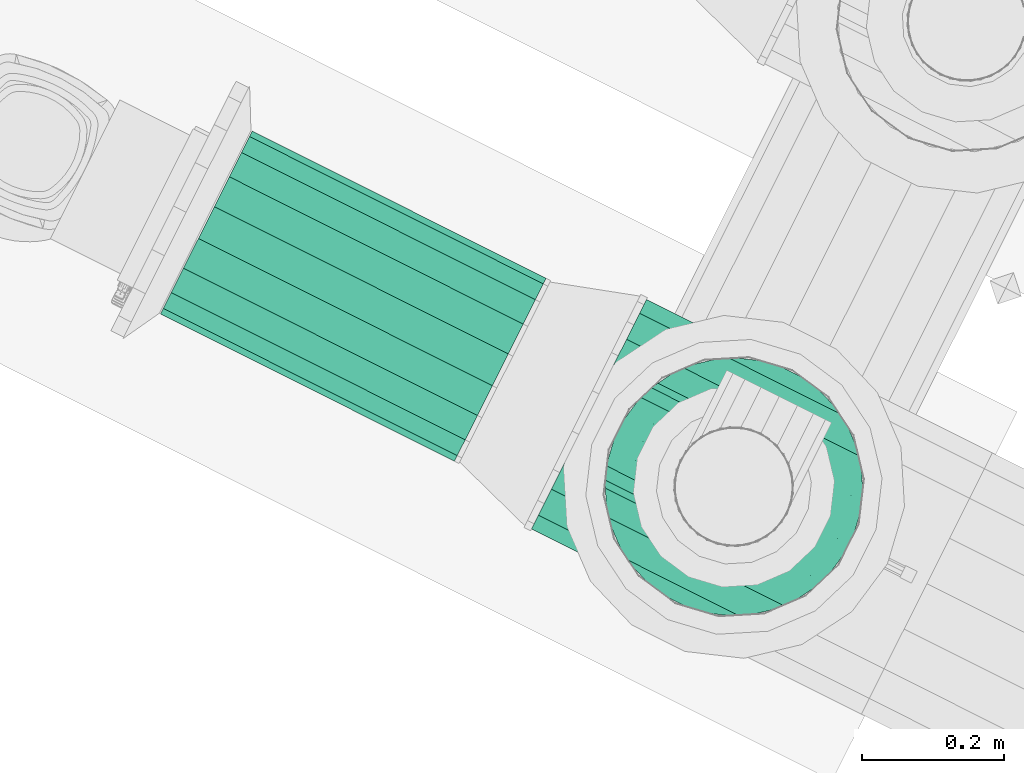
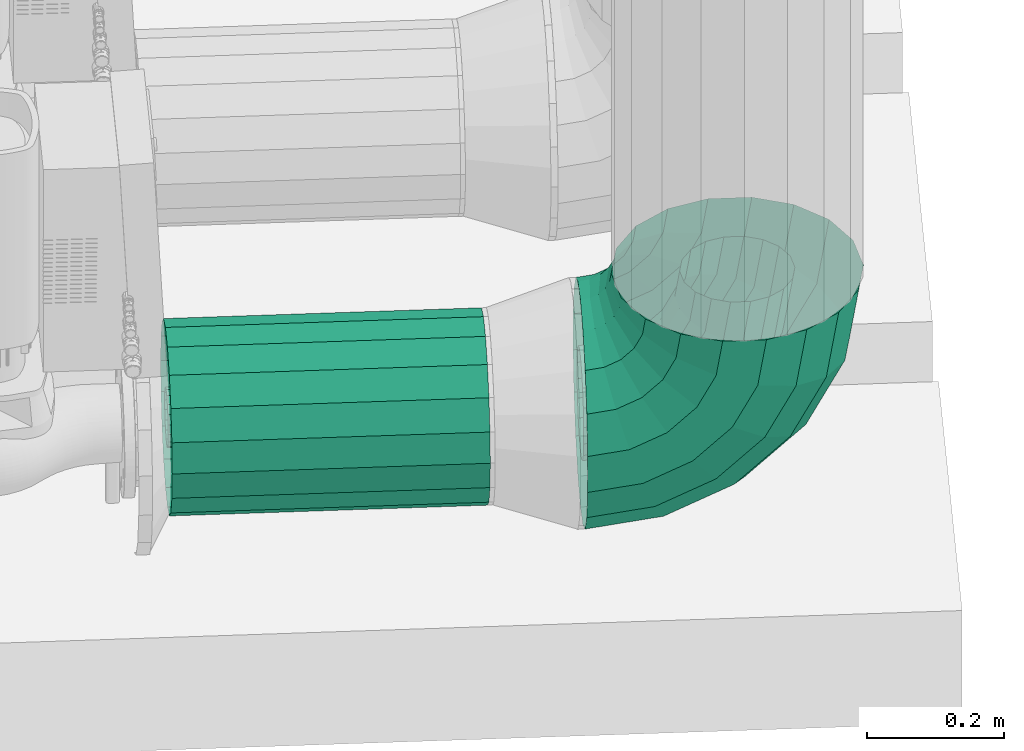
# One storey, part 20 of 152: 2 flow segments.
"""IFC2X3 building model written with IfcOpenShell, lengths in metres."""

from ifc_helpers import new_model, si_unit, derived_unit, direction, frame, origin, place, context, subcontext, project, spatial, face_set, surface_model, source, transform, mapped, material, type_object, type_shapes, element, save


model = new_model("IFC2X3")

# Units and contexts
model_context = context("Model", 3, precision=5.2338327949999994e-05, world=origin(), true_north=direction((0.0, 1.0)))
body_context = subcontext(model_context, "Body", "Model", "MODEL_VIEW")
ifc_project = project(units=[si_unit("LENGTHUNIT", "METRE"), si_unit("AREAUNIT", "SQUARE_METRE"), si_unit("VOLUMEUNIT", "CUBIC_METRE"), si_unit("MASSUNIT", "GRAM", prefix="KILO"), si_unit("PLANEANGLEUNIT", "RADIAN"), derived_unit("THERMALTRANSMITTANCEUNIT", [(si_unit("MASSUNIT", "GRAM", prefix="KILO"), 1), (si_unit("THERMODYNAMICTEMPERATUREUNIT", "KELVIN"), -1), (si_unit("TIMEUNIT", "SECOND"), -3)])], contexts=[model_context])

# Site, building, storey
site_placement = place(None, frame((0.0, 0.0, 0.0), z_axis=(0.0, 0.0, 1.0), x_axis=(0.8939966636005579, -0.4480736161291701, 0.0)))
site = spatial("IfcSite", under=ifc_project, at=site_placement, Name="Default", CompositionType="ELEMENT")
building_placement = place(site_placement, origin())
building = spatial("IfcBuilding", under=site, at=building_placement, CompositionType="ELEMENT")
storey_placement = place(building_placement, frame((0.0, 0.0, 2.7499999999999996)))
storey = spatial("IfcBuildingStorey", under=building, at=storey_placement, Name="1. Obergeschoss", CompositionType="ELEMENT", Elevation=2.7499999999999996)

# Flow segments
ifc_material = material(Name="IfcSurfaceStyle #9317")
distribution_element_type_1 = type_object("IfcDistributionElementType", Name="Rohrbogen 15085:Rohrbogen 15085", material=ifc_material)
shared_shape_1 = source(origin(), body_context, "Body", "SurfaceModel", [
    surface_model("IfcFaceBasedSurfaceModel", [(11.809964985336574, 5.856787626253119, 3.554154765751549), (11.804890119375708, 5.828006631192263, 3.554154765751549), (11.789811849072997, 5.828006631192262, 3.458954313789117), (11.794638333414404, 5.856787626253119, 3.4573860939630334), (11.746053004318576, 5.828006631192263, 3.3730727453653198), (11.75015865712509, 5.856787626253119, 3.3700898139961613), (11.677897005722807, 5.828006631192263, 3.304916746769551), (11.680879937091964, 5.856787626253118, 3.300811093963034), (11.59201543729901, 5.828006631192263, 3.261157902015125), (11.59358365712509, 5.856787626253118, 3.2563314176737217), (11.496814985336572, 5.828006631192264, 3.2460796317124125), (11.496814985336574, 5.856787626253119, 3.2410047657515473), (11.790277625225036, 5.802697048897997, 3.554154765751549), (11.775914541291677, 5.802697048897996, 3.4634698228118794), (11.734231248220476, 5.802697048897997, 3.3816617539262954), (11.669307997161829, 5.802697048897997, 3.316738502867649), (11.587499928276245, 5.802697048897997, 3.2750552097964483), (11.496814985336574, 5.802697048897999, 3.260692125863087), (11.767889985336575, 5.783911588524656, 3.554154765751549), (11.754622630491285, 5.783911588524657, 3.47038798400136), (11.716119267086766, 5.783911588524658, 3.394820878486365), (11.656148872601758, 5.783911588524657, 3.3348504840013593), (11.580581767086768, 5.783911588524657, 3.296347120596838), (11.496814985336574, 5.783911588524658, 3.2830797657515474), (11.740427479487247, 5.773916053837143, 3.554154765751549), (11.728504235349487, 5.77391605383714, 3.4788743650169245), (11.693901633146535, 5.773916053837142, 3.410962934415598), (11.640006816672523, 5.773916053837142, 3.357068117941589), (11.5720953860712, 5.773916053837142, 3.322465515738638), (11.496814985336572, 5.773916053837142, 3.3105422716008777), (11.711202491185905, 5.773916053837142, 3.554154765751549), (11.700709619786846, 5.77391605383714, 3.487905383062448), (11.67025812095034, 5.773916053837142, 3.4281409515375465), (11.622828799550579, 5.773916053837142, 3.380711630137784), (11.563064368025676, 5.77391605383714, 3.3502601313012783), (11.496814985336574, 5.773916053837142, 3.3397672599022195), (11.683739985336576, 5.783911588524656, 3.554154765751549), (11.674591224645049, 5.783911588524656, 3.4963917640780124), (11.648040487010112, 5.783911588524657, 3.4442830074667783), (11.606686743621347, 5.783911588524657, 3.402929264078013), (11.554577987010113, 5.783911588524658, 3.3763785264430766), (11.496814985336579, 5.783911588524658, 3.367229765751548), (11.661352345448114, 5.802697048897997, 3.5541547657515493), (11.653299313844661, 5.802697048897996, 3.5033099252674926), (11.6299285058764, 5.802697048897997, 3.4574421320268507), (11.593527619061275, 5.802697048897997, 3.4210412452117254), (11.54765982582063, 5.802697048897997, 3.397670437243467), (11.496814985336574, 5.802697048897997, 3.38961740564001), (11.646739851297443, 5.828006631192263, 3.554154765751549), (11.639402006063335, 5.828006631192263, 3.5078254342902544), (11.618106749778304, 5.828006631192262, 3.466031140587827), (11.584938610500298, 5.828006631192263, 3.4328630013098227), (11.54314431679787, 5.828006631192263, 3.4115677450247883), (11.496814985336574, 5.828006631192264, 3.4042298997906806), (11.641664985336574, 5.856787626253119, 3.554154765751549), (11.634575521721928, 5.856787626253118, 3.5093936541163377), (11.614001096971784, 5.856787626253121, 3.4690140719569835), (11.58195567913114, 5.856787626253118, 3.4369686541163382), (11.541576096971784, 5.856787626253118, 3.4163942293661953), (11.496814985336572, 5.856787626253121, 3.409304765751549), (11.646739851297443, 5.8855686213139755, 3.554154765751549), (11.639402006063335, 5.885568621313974, 3.507825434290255), (11.618106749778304, 5.885568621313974, 3.4660311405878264), (11.584938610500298, 5.8855686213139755, 3.4328630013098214), (11.543144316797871, 5.885568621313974, 3.411567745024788), (11.496814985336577, 5.8855686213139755, 3.40422989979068), (11.661352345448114, 5.910878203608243, 3.554154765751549), (11.65329931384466, 5.9108782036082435, 3.5033099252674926), (11.629928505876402, 5.910878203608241, 3.4574421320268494), (11.593527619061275, 5.910878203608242, 3.4210412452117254), (11.54765982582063, 5.910878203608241, 3.3976704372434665), (11.496814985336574, 5.910878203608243, 3.3896174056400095), (11.683739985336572, 5.92966366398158, 3.554154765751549), (11.674591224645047, 5.929663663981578, 3.4963917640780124), (11.64804048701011, 5.929663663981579, 3.4442830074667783), (11.606686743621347, 5.92966366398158, 3.402929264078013), (11.554577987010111, 5.929663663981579, 3.376378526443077), (11.496814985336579, 5.92966366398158, 3.367229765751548), (11.711202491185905, 5.939659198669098, 3.554154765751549), (11.700709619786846, 5.939659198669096, 3.487905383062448), (11.67025812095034, 5.939659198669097, 3.4281409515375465), (11.62282879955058, 5.939659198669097, 3.380711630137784), (11.563064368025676, 5.939659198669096, 3.3502601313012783), (11.496814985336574, 5.939659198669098, 3.339767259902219), (11.740427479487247, 5.939659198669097, 3.554154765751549), (11.728504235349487, 5.939659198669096, 3.4788743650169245), (11.693901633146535, 5.939659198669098, 3.410962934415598), (11.640006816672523, 5.939659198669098, 3.357068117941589), (11.5720953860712, 5.939659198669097, 3.322465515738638), (11.496814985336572, 5.939659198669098, 3.310542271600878), (11.767889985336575, 5.92966366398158, 3.554154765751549), (11.754622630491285, 5.92966366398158, 3.4703879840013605), (11.716119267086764, 5.929663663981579, 3.394820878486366), (11.656148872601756, 5.929663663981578, 3.3348504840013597), (11.580581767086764, 5.929663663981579, 3.2963471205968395), (11.496814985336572, 5.929663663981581, 3.2830797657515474), (11.790277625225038, 5.9108782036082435, 3.554154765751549), (11.775914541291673, 5.910878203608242, 3.463469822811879), (11.734231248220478, 5.910878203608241, 3.3816617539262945), (11.669307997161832, 5.910878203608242, 3.3167385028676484), (11.587499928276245, 5.910878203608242, 3.275055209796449), (11.496814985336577, 5.910878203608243, 3.260692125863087), (11.804890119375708, 5.8855686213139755, 3.554154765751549), (11.789811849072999, 5.885568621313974, 3.458954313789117), (11.746053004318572, 5.885568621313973, 3.3730727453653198), (11.677897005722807, 5.885568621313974, 3.3049167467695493), (11.59201543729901, 5.885568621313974, 3.2611579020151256), (11.496814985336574, 5.8855686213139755, 3.246079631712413), (11.909964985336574, 5.856787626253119, 3.554154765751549), (11.898859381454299, 5.793804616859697, 3.554154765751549), (11.879181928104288, 5.793804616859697, 3.429916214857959), (11.889743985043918, 5.856787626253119, 3.4264843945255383), (11.822075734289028, 5.793804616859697, 3.3178389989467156), (11.831060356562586, 5.856787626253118, 3.3113112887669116), (11.733130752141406, 5.793804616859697, 3.228894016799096), (11.739658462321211, 5.856787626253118, 3.21990939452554), (11.621053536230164, 5.793804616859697, 3.1717878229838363), (11.624485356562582, 5.856787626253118, 3.1612257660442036), (11.496814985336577, 5.793804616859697, 3.152110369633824), (11.496814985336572, 5.856787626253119, 3.1410047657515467), (11.866882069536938, 5.738418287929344, 3.554154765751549), (11.848769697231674, 5.738418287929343, 3.4397977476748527), (11.796205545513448, 5.738418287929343, 3.3366347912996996), (11.71433495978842, 5.738418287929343, 3.2547642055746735), (11.611172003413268, 5.738418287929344, 3.2022000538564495), (11.496814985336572, 5.738418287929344, 3.1840876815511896), (11.817889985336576, 5.697309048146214, 3.554154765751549), (11.80217545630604, 5.697309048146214, 3.4549371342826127), (11.756570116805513, 5.697309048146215, 3.3654316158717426), (11.685538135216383, 5.697309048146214, 3.294399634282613), (11.59603261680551, 5.697309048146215, 3.2487942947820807), (11.496814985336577, 5.697309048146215, 3.2330797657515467), (11.757792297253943, 5.67543527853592, 3.554154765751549), (11.74501915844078, 5.67543527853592, 3.4735083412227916), (11.707950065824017, 5.67543527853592, 3.4007561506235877), (11.650213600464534, 5.675435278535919, 3.3430196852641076), (11.57746140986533, 5.67543527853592, 3.3059505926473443), (11.496814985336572, 5.67543527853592, 3.2931774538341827), (11.693837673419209, 5.675435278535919, 3.554154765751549), (11.68419469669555, 5.67543527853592, 3.493271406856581), (11.656209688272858, 5.675435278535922, 3.438347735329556), (11.612622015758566, 5.67543527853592, 3.394760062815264), (11.557698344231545, 5.67543527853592, 3.3667750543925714), (11.496814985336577, 5.67543527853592, 3.3571320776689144), (11.633739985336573, 5.697309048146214, 3.554154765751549), (11.627038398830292, 5.697309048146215, 3.5118426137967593), (11.607589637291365, 5.697309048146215, 3.473672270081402), (11.577297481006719, 5.697309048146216, 3.4433801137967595), (11.539127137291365, 5.697309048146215, 3.4239313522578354), (11.496814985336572, 5.697309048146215, 3.41722976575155), (11.584747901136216, 5.738418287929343, 3.554154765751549), (11.580444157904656, 5.738418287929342, 3.5269820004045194), (11.567954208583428, 5.738418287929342, 3.5024690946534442), (11.548500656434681, 5.738418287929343, 3.4830155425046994), (11.523987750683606, 5.738418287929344, 3.4705255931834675), (11.496814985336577, 5.738418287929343, 3.466221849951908), (11.552770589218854, 5.793804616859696, 3.554154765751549), (11.550031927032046, 5.793804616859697, 3.5368635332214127), (11.542084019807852, 5.793804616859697, 3.521264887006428), (11.5297048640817, 5.793804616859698, 3.508885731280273), (11.514106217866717, 5.793804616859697, 3.5009378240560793), (11.496814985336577, 5.793804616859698, 3.49819916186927), (11.541664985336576, 5.856787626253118, 3.554154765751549), (11.53946987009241, 5.856787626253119, 3.540295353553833), (11.53309939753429, 5.856787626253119, 3.5277925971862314), (11.523177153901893, 5.856787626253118, 3.517870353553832), (11.510674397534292, 5.856787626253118, 3.5114998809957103), (11.496814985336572, 5.856787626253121, 3.5093047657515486), (11.552770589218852, 5.91977063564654, 3.5541547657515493), (11.550031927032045, 5.919770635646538, 3.536863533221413), (11.542084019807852, 5.919770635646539, 3.5212648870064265), (11.529704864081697, 5.919770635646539, 3.508885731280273), (11.514106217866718, 5.919770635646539, 3.500937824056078), (11.496814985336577, 5.919770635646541, 3.498199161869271), (11.584747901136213, 5.975156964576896, 3.554154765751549), (11.580444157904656, 5.975156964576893, 3.5269820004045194), (11.567954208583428, 5.975156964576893, 3.5024690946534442), (11.54850065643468, 5.975156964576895, 3.4830155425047), (11.523987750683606, 5.975156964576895, 3.4705255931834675), (11.496814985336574, 5.975156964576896, 3.466221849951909), (11.633739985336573, 6.016266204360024, 3.554154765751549), (11.627038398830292, 6.016266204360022, 3.51184261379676), (11.607589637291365, 6.016266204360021, 3.4736722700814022), (11.57729748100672, 6.016266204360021, 3.4433801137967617), (11.539127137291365, 6.016266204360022, 3.4239313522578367), (11.496814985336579, 6.016266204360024, 3.41722976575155), (11.693837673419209, 6.038139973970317, 3.554154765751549), (11.684194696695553, 6.038139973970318, 3.493271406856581), (11.65620968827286, 6.038139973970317, 3.438347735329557), (11.612622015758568, 6.038139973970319, 3.3947600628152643), (11.557698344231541, 6.038139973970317, 3.3667750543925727), (11.496814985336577, 6.038139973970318, 3.357132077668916), (11.757792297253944, 6.038139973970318, 3.554154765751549), (11.745019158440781, 6.038139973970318, 3.4735083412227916), (11.707950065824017, 6.038139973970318, 3.4007561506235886), (11.650213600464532, 6.038139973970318, 3.34301968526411), (11.57746140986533, 6.038139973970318, 3.3059505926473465), (11.496814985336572, 6.038139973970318, 3.2931774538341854), (11.817889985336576, 6.016266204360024, 3.554154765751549), (11.802175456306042, 6.016266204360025, 3.454937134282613), (11.756570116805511, 6.016266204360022, 3.365431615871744), (11.685538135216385, 6.01626620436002, 3.294399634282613), (11.59603261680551, 6.016266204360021, 3.248794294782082), (11.496814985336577, 6.016266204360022, 3.2330797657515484), (11.866882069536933, 5.975156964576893, 3.554154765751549), (11.848769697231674, 5.975156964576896, 3.4397977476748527), (11.796205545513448, 5.975156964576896, 3.3366347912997), (11.71433495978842, 5.975156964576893, 3.254764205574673), (11.611172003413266, 5.975156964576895, 3.2022000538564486), (11.496814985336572, 5.975156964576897, 3.1840876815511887), (11.898859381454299, 5.91977063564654, 3.554154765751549), (11.879181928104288, 5.91977063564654, 3.429916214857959), (11.822075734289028, 5.919770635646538, 3.317838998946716), (11.733130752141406, 5.919770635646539, 3.2288940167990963), (11.621053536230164, 5.919770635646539, 3.1717878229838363), (11.496814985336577, 5.919770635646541, 3.152110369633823)], [face_set([[[0, 1, 2, 3]], [[3, 2, 4, 5]], [[5, 4, 6, 7]], [[7, 6, 8, 9]], [[9, 8, 10, 11]], [[1, 12, 13, 2]], [[2, 13, 14, 4]], [[4, 14, 15, 6]], [[6, 15, 16, 8]], [[8, 16, 17, 10]], [[12, 18, 19, 13]], [[13, 19, 20, 14]], [[14, 20, 21, 15]], [[15, 21, 22, 16]], [[16, 22, 23, 17]], [[18, 24, 25, 19]], [[19, 25, 26, 20]], [[20, 26, 27, 21]], [[21, 27, 28, 22]], [[22, 28, 29, 23]], [[24, 30, 31, 25]], [[25, 31, 32, 26]], [[26, 32, 33, 27]], [[27, 33, 34, 28]], [[28, 34, 35, 29]], [[30, 36, 37, 31]], [[31, 37, 38, 32]], [[32, 38, 39, 33]], [[33, 39, 40, 34]], [[34, 40, 41, 35]], [[36, 42, 43, 37]], [[37, 43, 44, 38]], [[38, 44, 45, 39]], [[39, 45, 46, 40]], [[40, 46, 47, 41]], [[42, 48, 49, 43]], [[43, 49, 50, 44]], [[44, 50, 51, 45]], [[45, 51, 52, 46]], [[46, 52, 53, 47]], [[48, 54, 55, 49]], [[49, 55, 56, 50]], [[50, 56, 57, 51]], [[51, 57, 58, 52]], [[52, 58, 59, 53]], [[54, 60, 61, 55]], [[55, 61, 62, 56]], [[56, 62, 63, 57]], [[57, 63, 64, 58]], [[58, 64, 65, 59]], [[60, 66, 67, 61]], [[61, 67, 68, 62]], [[62, 68, 69, 63]], [[63, 69, 70, 64]], [[64, 70, 71, 65]], [[66, 72, 73, 67]], [[67, 73, 74, 68]], [[68, 74, 75, 69]], [[69, 75, 76, 70]], [[70, 76, 77, 71]], [[72, 78, 79, 73]], [[73, 79, 80, 74]], [[74, 80, 81, 75]], [[75, 81, 82, 76]], [[76, 82, 83, 77]], [[78, 84, 85, 79]], [[79, 85, 86, 80]], [[80, 86, 87, 81]], [[81, 87, 88, 82]], [[82, 88, 89, 83]], [[84, 90, 91, 85]], [[85, 91, 92, 86]], [[86, 92, 93, 87]], [[87, 93, 94, 88]], [[88, 94, 95, 89]], [[90, 96, 97, 91]], [[91, 97, 98, 92]], [[92, 98, 99, 93]], [[93, 99, 100, 94]], [[94, 100, 101, 95]], [[96, 102, 103, 97]], [[97, 103, 104, 98]], [[98, 104, 105, 99]], [[99, 105, 106, 100]], [[100, 106, 107, 101]], [[102, 0, 3, 103]], [[103, 3, 5, 104]], [[104, 5, 7, 105]], [[105, 7, 9, 106]], [[106, 9, 11, 107]], [[108, 109, 110, 111]], [[111, 110, 112, 113]], [[113, 112, 114, 115]], [[115, 114, 116, 117]], [[117, 116, 118, 119]], [[109, 120, 121, 110]], [[110, 121, 122, 112]], [[112, 122, 123, 114]], [[114, 123, 124, 116]], [[116, 124, 125, 118]], [[120, 126, 127, 121]], [[121, 127, 128, 122]], [[122, 128, 129, 123]], [[123, 129, 130, 124]], [[124, 130, 131, 125]], [[126, 132, 133, 127]], [[127, 133, 134, 128]], [[128, 134, 135, 129]], [[129, 135, 136, 130]], [[130, 136, 137, 131]], [[132, 138, 139, 133]], [[133, 139, 140, 134]], [[134, 140, 141, 135]], [[135, 141, 142, 136]], [[136, 142, 143, 137]], [[138, 144, 145, 139]], [[139, 145, 146, 140]], [[140, 146, 147, 141]], [[141, 147, 148, 142]], [[142, 148, 149, 143]], [[144, 150, 151, 145]], [[145, 151, 152, 146]], [[146, 152, 153, 147]], [[147, 153, 154, 148]], [[148, 154, 155, 149]], [[150, 156, 157, 151]], [[151, 157, 158, 152]], [[152, 158, 159, 153]], [[153, 159, 160, 154]], [[154, 160, 161, 155]], [[156, 162, 163, 157]], [[157, 163, 164, 158]], [[158, 164, 165, 159]], [[159, 165, 166, 160]], [[160, 166, 167, 161]], [[162, 168, 169, 163]], [[163, 169, 170, 164]], [[164, 170, 171, 165]], [[165, 171, 172, 166]], [[166, 172, 173, 167]], [[168, 174, 175, 169]], [[169, 175, 176, 170]], [[170, 176, 177, 171]], [[171, 177, 178, 172]], [[172, 178, 179, 173]], [[174, 180, 181, 175]], [[175, 181, 182, 176]], [[176, 182, 183, 177]], [[177, 183, 184, 178]], [[178, 184, 185, 179]], [[180, 186, 187, 181]], [[181, 187, 188, 182]], [[182, 188, 189, 183]], [[183, 189, 190, 184]], [[184, 190, 191, 185]], [[186, 192, 193, 187]], [[187, 193, 194, 188]], [[188, 194, 195, 189]], [[189, 195, 196, 190]], [[190, 196, 197, 191]], [[192, 198, 199, 193]], [[193, 199, 200, 194]], [[194, 200, 201, 195]], [[195, 201, 202, 196]], [[196, 202, 203, 197]], [[198, 204, 205, 199]], [[199, 205, 206, 200]], [[200, 206, 207, 201]], [[201, 207, 208, 202]], [[202, 208, 209, 203]], [[204, 210, 211, 205]], [[205, 211, 212, 206]], [[206, 212, 213, 207]], [[207, 213, 214, 208]], [[208, 214, 215, 209]], [[210, 108, 111, 211]], [[211, 111, 113, 212]], [[212, 113, 115, 213]], [[213, 115, 117, 214]], [[214, 117, 119, 215]]])]),
])
type_shapes(distribution_element_type_1, [shared_shape_1])
flow_segment_1_placement = place(storey_placement, frame((0.0, 0.0, -2.7499999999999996)))
element("IfcFlowSegment", 1, at=flow_segment_1_placement, inside=storey, type_object=distribution_element_type_1, material=ifc_material, Name="Rohrbogen", ObjectType="Rohrbogen", context=body_context, shape_type="MappedRepresentation", body=[
    mapped(shared_shape_1, transform((0.0, 0.0, 0.0), scale=1.0)),
])
distribution_element_type_2 = type_object("IfcDistributionElementType", Name="Stahlrohr nach DIN 2448 220275:Stahlrohr nach DIN 2448 220275", material=ifc_material)
shared_shape_2 = source(origin(), body_context, "Body", "SurfaceModel", [
    surface_model("IfcFaceBasedSurfaceModel", [(11.356814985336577, 5.812337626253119, 3.325154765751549), (11.356814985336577, 5.815018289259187, 3.3403575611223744), (10.892519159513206, 5.815018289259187, 3.3403575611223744), (10.892519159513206, 5.812337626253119, 3.325154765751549), (11.356814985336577, 5.8227369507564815, 3.353726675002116), (10.892519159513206, 5.8227369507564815, 3.3537266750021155), (11.356814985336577, 5.83456262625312, 3.3636495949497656), (10.892519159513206, 5.83456262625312, 3.3636495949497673), (11.356814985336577, 5.849068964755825, 3.3689294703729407), (10.892519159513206, 5.849068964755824, 3.3689294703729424), (11.356814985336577, 5.864506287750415, 3.36892947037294), (10.892519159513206, 5.864506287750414, 3.3689294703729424), (11.356814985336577, 5.879012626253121, 3.363649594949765), (10.892519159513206, 5.87901262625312, 3.3636495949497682), (11.356814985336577, 5.890838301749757, 3.3537266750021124), (10.892519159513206, 5.890838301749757, 3.3537266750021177), (11.356814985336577, 5.89855696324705, 3.340357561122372), (10.892519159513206, 5.898556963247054, 3.340357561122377), (11.356814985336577, 5.90123762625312, 3.3251547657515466), (10.892519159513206, 5.9012376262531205, 3.3251547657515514), (11.356814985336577, 5.898556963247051, 3.309951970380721), (10.892519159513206, 5.898556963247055, 3.309951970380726), (11.356814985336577, 5.890838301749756, 3.29658285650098), (10.892519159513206, 5.890838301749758, 3.2965828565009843), (11.356814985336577, 5.879012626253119, 3.286659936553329), (10.892519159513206, 5.879012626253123, 3.2866599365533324), (11.356814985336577, 5.8645062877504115, 3.2813800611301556), (10.892519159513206, 5.864506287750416, 3.2813800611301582), (11.356814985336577, 5.849068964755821, 3.2813800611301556), (10.892519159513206, 5.849068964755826, 3.281380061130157), (11.356814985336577, 5.834562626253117, 3.28665993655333), (10.892519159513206, 5.834562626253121, 3.2866599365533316), (11.356814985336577, 5.82273695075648, 3.2965828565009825), (10.892519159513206, 5.822736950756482, 3.2965828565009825), (11.356814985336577, 5.815018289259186, 3.309951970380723), (10.892519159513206, 5.815018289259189, 3.309951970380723), (11.356814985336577, 5.712337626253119, 3.325154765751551), (11.356814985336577, 5.721049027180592, 3.374559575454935), (10.892519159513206, 5.721049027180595, 3.374559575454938), (10.892519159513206, 5.71233762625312, 3.3251547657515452), (11.356814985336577, 5.746132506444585, 3.4180054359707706), (10.892519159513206, 5.746132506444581, 3.418005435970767), (11.356814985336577, 5.784562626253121, 3.4502521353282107), (10.892519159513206, 5.784562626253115, 3.450252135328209), (11.356814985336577, 5.831704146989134, 3.467410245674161), (10.892519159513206, 5.831704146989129, 3.4674102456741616), (11.356814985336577, 5.881871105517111, 3.4674102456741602), (10.892519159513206, 5.881871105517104, 3.4674102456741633), (11.356814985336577, 5.9290126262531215, 3.4502521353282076), (10.892519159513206, 5.929012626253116, 3.450252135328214), (11.356814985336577, 5.967442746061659, 3.4180054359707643), (10.892519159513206, 5.967442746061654, 3.4180054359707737), (11.356814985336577, 5.992526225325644, 3.374559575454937), (10.892519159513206, 5.992526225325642, 3.374559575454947), (11.356814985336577, 6.0012376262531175, 3.3251547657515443), (10.892519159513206, 6.001237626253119, 3.3251547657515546), (11.356814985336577, 5.992526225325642, 3.275749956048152), (10.892519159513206, 5.992526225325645, 3.275749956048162), (11.356814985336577, 5.967442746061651, 3.2323040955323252), (10.892519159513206, 5.967442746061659, 3.2323040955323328), (11.356814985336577, 5.929012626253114, 3.2000573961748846), (10.892519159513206, 5.929012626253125, 3.2000573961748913), (11.356814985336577, 5.881871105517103, 3.182899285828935), (10.892519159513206, 5.881871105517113, 3.1828992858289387), (11.356814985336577, 5.831704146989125, 3.182899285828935), (10.892519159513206, 5.831704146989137, 3.182899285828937), (11.356814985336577, 5.784562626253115, 3.200057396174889), (10.892519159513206, 5.784562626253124, 3.200057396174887), (11.356814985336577, 5.746132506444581, 3.23230409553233), (10.892519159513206, 5.746132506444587, 3.232304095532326), (11.356814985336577, 5.721049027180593, 3.275749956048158), (10.892519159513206, 5.721049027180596, 3.2757499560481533)], [face_set([[[0, 1, 2, 3]], [[1, 4, 5, 2]], [[4, 6, 7, 5]], [[6, 8, 9, 7]], [[8, 10, 11, 9]], [[10, 12, 13, 11]], [[12, 14, 15, 13]], [[14, 16, 17, 15]], [[16, 18, 19, 17]], [[18, 20, 21, 19]], [[20, 22, 23, 21]], [[22, 24, 25, 23]], [[24, 26, 27, 25]], [[26, 28, 29, 27]], [[28, 30, 31, 29]], [[30, 32, 33, 31]], [[32, 34, 35, 33]], [[34, 0, 3, 35]], [[36, 37, 38, 39]], [[37, 40, 41, 38]], [[40, 42, 43, 41]], [[42, 44, 45, 43]], [[44, 46, 47, 45]], [[46, 48, 49, 47]], [[48, 50, 51, 49]], [[50, 52, 53, 51]], [[52, 54, 55, 53]], [[54, 56, 57, 55]], [[56, 58, 59, 57]], [[58, 60, 61, 59]], [[60, 62, 63, 61]], [[62, 64, 65, 63]], [[64, 66, 67, 65]], [[66, 68, 69, 67]], [[68, 70, 71, 69]], [[70, 36, 39, 71]]])]),
])
type_shapes(distribution_element_type_2, [shared_shape_2])
flow_segment_2_placement = place(storey_placement, frame((0.0, 0.0, -2.7499999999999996)))
element("IfcFlowSegment", 2, at=flow_segment_2_placement, inside=storey, type_object=distribution_element_type_2, material=ifc_material, Name="Stahlrohr nach DIN 2448", ObjectType="Stahlrohr nach DIN 2448", context=body_context, shape_type="MappedRepresentation", body=[
    mapped(shared_shape_2, transform((0.0, 0.0, 0.0), scale=1.0)),
])

save(model, "model.ifc")
